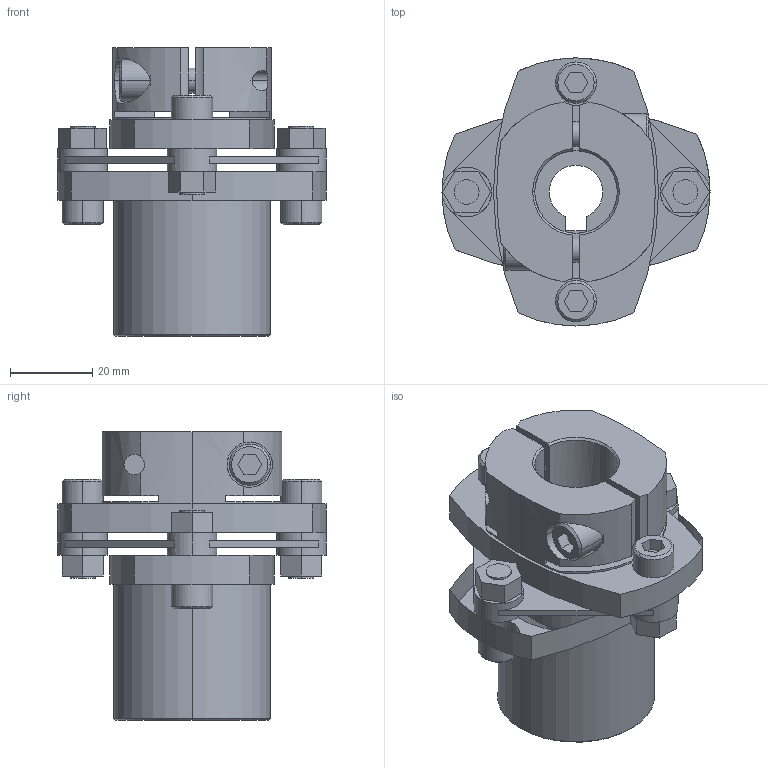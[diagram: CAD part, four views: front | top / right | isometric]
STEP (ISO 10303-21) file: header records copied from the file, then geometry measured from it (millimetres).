
FILE_DESCRIPTION((''),'2;1');
FILE_NAME('LCS-65M-16L亊20B.stp','2011-08-20T15:59:13',(''),(''),'AutoCAD STEP 2000i','AutoCAD 2000i',', , ');
FILE_SCHEMA(('CONFIG_CONTROL_DESIGN'));
Length unit declared in the file: millimetre
Products named in the file (8): LCS-65M-16L×16B; 忣兜1; LC65-B016; LC65M-L016; LC65M-L011; LC65-B014-1; LC65-B014; LCS65-ITA
Assembly tree (7 placements, depth 2):
  LCS-65M-16L×16B
    忣兜1
    LC65-B016
    LC65M-L016
    LC65M-L011
    LC65-B014-1
    LC65-B014
    LCS65-ITA
Bounding box: 65 x 65 x 70 mm (x, y, z)
Volume: 80338.5 mm3; surface area: 29217.9 mm2
Topology: 1 solids, 1 shells, 222 faces, 582 edges, 380 vertices
Faces by surface type: plane 115, cylinder 84, cone 23
Entity records: 7357 total; most frequent: CARTESIAN_POINT 1500, DIRECTION 1244, ORIENTED_EDGE 1164, EDGE_CURVE 582, AXIS2_PLACEMENT_3D 454, VERTEX_POINT 380, VECTOR 336, LINE 336
